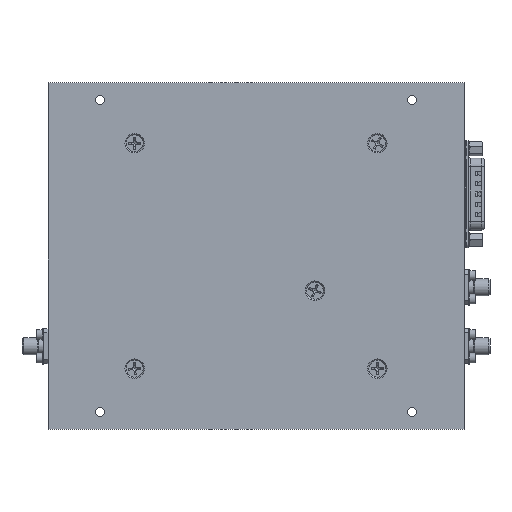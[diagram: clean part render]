
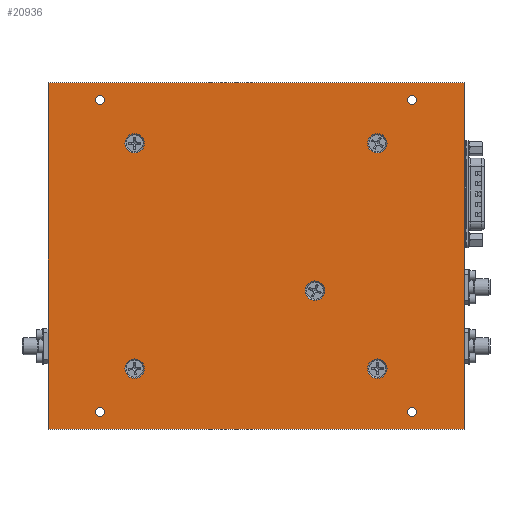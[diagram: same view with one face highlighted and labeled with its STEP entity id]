
A CAD part, top view. The second image highlights one B-rep face of the part: STEP entity #20936.
In plain terms, the highlighted planar face has unit normal (0, 0, 1).
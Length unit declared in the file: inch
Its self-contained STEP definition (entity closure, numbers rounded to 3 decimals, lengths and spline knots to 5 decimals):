
#20427=CARTESIAN_POINT('',(1.8895,-1.625,0.125));
#20428=VERTEX_POINT('',#20427);
#20429=CARTESIAN_POINT('',(1.75,-1.625,0.125));
#20430=DIRECTION('',(0.0,0.0,-1.0));
#20431=DIRECTION('',(1.0,0.0,0.0));
#20432=AXIS2_PLACEMENT_3D('',#20429,#20430,#20431);
#20433=CIRCLE('',#20432,0.1395);
#20434=EDGE_CURVE('',#20428,#20428,#20433,.T.);
#20475=CARTESIAN_POINT('',(-1.6105,1.625,0.125));
#20476=VERTEX_POINT('',#20475);
#20477=CARTESIAN_POINT('',(-1.75,1.625,0.125));
#20478=DIRECTION('',(0.0,0.0,-1.0));
#20479=DIRECTION('',(1.0,0.0,0.0));
#20480=AXIS2_PLACEMENT_3D('',#20477,#20478,#20479);
#20481=CIRCLE('',#20480,0.1395);
#20482=EDGE_CURVE('',#20476,#20476,#20481,.T.);
#20523=CARTESIAN_POINT('',(0.9895,-0.5,0.125));
#20524=VERTEX_POINT('',#20523);
#20525=CARTESIAN_POINT('',(0.85,-0.5,0.125));
#20526=DIRECTION('',(0.0,0.0,-1.0));
#20527=DIRECTION('',(1.0,0.0,0.0));
#20528=AXIS2_PLACEMENT_3D('',#20525,#20526,#20527);
#20529=CIRCLE('',#20528,0.1395);
#20530=EDGE_CURVE('',#20524,#20524,#20529,.T.);
#20571=CARTESIAN_POINT('',(1.8895,1.625,0.125));
#20572=VERTEX_POINT('',#20571);
#20573=CARTESIAN_POINT('',(1.75,1.625,0.125));
#20574=DIRECTION('',(0.0,0.0,-1.0));
#20575=DIRECTION('',(1.0,0.0,0.0));
#20576=AXIS2_PLACEMENT_3D('',#20573,#20574,#20575);
#20577=CIRCLE('',#20576,0.1395);
#20578=EDGE_CURVE('',#20572,#20572,#20577,.T.);
#20619=CARTESIAN_POINT('',(-1.6105,-1.625,0.125));
#20620=VERTEX_POINT('',#20619);
#20621=CARTESIAN_POINT('',(-1.75,-1.625,0.125));
#20622=DIRECTION('',(0.0,0.0,-1.0));
#20623=DIRECTION('',(1.0,0.0,0.0));
#20624=AXIS2_PLACEMENT_3D('',#20621,#20622,#20623);
#20625=CIRCLE('',#20624,0.1395);
#20626=EDGE_CURVE('',#20620,#20620,#20625,.T.);
#20678=CARTESIAN_POINT('',(2.3125,-2.25,0.125));
#20679=VERTEX_POINT('',#20678);
#20680=CARTESIAN_POINT('',(2.25,-2.25,0.125));
#20681=DIRECTION('',(0.0,0.0,-1.0));
#20682=DIRECTION('',(1.0,0.0,0.0));
#20683=AXIS2_PLACEMENT_3D('',#20680,#20681,#20682);
#20684=CIRCLE('',#20683,0.0625);
#20685=EDGE_CURVE('',#20679,#20679,#20684,.T.);
#20706=CARTESIAN_POINT('',(-2.1875,2.25,0.125));
#20707=VERTEX_POINT('',#20706);
#20708=CARTESIAN_POINT('',(-2.25,2.25,0.125));
#20709=DIRECTION('',(0.0,0.0,-1.0));
#20710=DIRECTION('',(1.0,0.0,0.0));
#20711=AXIS2_PLACEMENT_3D('',#20708,#20709,#20710);
#20712=CIRCLE('',#20711,0.0625);
#20713=EDGE_CURVE('',#20707,#20707,#20712,.T.);
#20734=CARTESIAN_POINT('',(2.3125,2.25,0.125));
#20735=VERTEX_POINT('',#20734);
#20736=CARTESIAN_POINT('',(2.25,2.25,0.125));
#20737=DIRECTION('',(0.0,0.0,-1.0));
#20738=DIRECTION('',(1.0,0.0,0.0));
#20739=AXIS2_PLACEMENT_3D('',#20736,#20737,#20738);
#20740=CIRCLE('',#20739,0.0625);
#20741=EDGE_CURVE('',#20735,#20735,#20740,.T.);
#20762=CARTESIAN_POINT('',(-2.1875,-2.25,0.125));
#20763=VERTEX_POINT('',#20762);
#20764=CARTESIAN_POINT('',(-2.25,-2.25,0.125));
#20765=DIRECTION('',(0.0,0.0,-1.0));
#20766=DIRECTION('',(1.0,0.0,0.0));
#20767=AXIS2_PLACEMENT_3D('',#20764,#20765,#20766);
#20768=CIRCLE('',#20767,0.0625);
#20769=EDGE_CURVE('',#20763,#20763,#20768,.T.);
#20789=CARTESIAN_POINT('',(3.0,2.5,0.125));
#20790=VERTEX_POINT('',#20789);
#20797=CARTESIAN_POINT('',(3.0,-2.5,0.125));
#20798=VERTEX_POINT('',#20797);
#20799=CARTESIAN_POINT('',(3.0,-2.5,0.125));
#20800=DIRECTION('',(0.0,1.0,0.0));
#20801=VECTOR('',#20800,5.0);
#20802=LINE('',#20799,#20801);
#20803=EDGE_CURVE('',#20798,#20790,#20802,.T.);
#20828=CARTESIAN_POINT('',(-3.0,-2.5,0.125));
#20829=VERTEX_POINT('',#20828);
#20830=CARTESIAN_POINT('',(-3.0,-2.5,0.125));
#20831=DIRECTION('',(1.0,0.0,0.0));
#20832=VECTOR('',#20831,6.0);
#20833=LINE('',#20830,#20832);
#20834=EDGE_CURVE('',#20829,#20798,#20833,.T.);
#20859=CARTESIAN_POINT('',(-3.0,2.5,0.125));
#20860=VERTEX_POINT('',#20859);
#20861=CARTESIAN_POINT('',(-3.0,2.5,0.125));
#20862=DIRECTION('',(0.0,-1.0,0.0));
#20863=VECTOR('',#20862,5.0);
#20864=LINE('',#20861,#20863);
#20865=EDGE_CURVE('',#20860,#20829,#20864,.T.);
#20888=CARTESIAN_POINT('',(3.0,2.5,0.125));
#20889=DIRECTION('',(-1.0,0.0,0.0));
#20890=VECTOR('',#20889,6.0);
#20891=LINE('',#20888,#20890);
#20892=EDGE_CURVE('',#20790,#20860,#20891,.T.);
#20898=CARTESIAN_POINT('',(0.0,0.0,0.125));
#20899=DIRECTION('',(0.0,0.0,1.0));
#20900=DIRECTION('',(1.0,0.0,0.0));
#20901=AXIS2_PLACEMENT_3D('',#20898,#20899,#20900);
#20902=PLANE('',#20901);
#20903=ORIENTED_EDGE('',*,*,#20892,.T.);
#20904=ORIENTED_EDGE('',*,*,#20865,.T.);
#20905=ORIENTED_EDGE('',*,*,#20834,.T.);
#20906=ORIENTED_EDGE('',*,*,#20803,.T.);
#20907=EDGE_LOOP('',(#20903,#20904,#20905,#20906));
#20908=FACE_OUTER_BOUND('',#20907,.T.);
#20909=ORIENTED_EDGE('',*,*,#20434,.T.);
#20910=EDGE_LOOP('',(#20909));
#20911=FACE_BOUND('',#20910,.T.);
#20912=ORIENTED_EDGE('',*,*,#20482,.T.);
#20913=EDGE_LOOP('',(#20912));
#20914=FACE_BOUND('',#20913,.T.);
#20915=ORIENTED_EDGE('',*,*,#20530,.T.);
#20916=EDGE_LOOP('',(#20915));
#20917=FACE_BOUND('',#20916,.T.);
#20918=ORIENTED_EDGE('',*,*,#20578,.T.);
#20919=EDGE_LOOP('',(#20918));
#20920=FACE_BOUND('',#20919,.T.);
#20921=ORIENTED_EDGE('',*,*,#20626,.T.);
#20922=EDGE_LOOP('',(#20921));
#20923=FACE_BOUND('',#20922,.T.);
#20924=ORIENTED_EDGE('',*,*,#20685,.T.);
#20925=EDGE_LOOP('',(#20924));
#20926=FACE_BOUND('',#20925,.T.);
#20927=ORIENTED_EDGE('',*,*,#20713,.T.);
#20928=EDGE_LOOP('',(#20927));
#20929=FACE_BOUND('',#20928,.T.);
#20930=ORIENTED_EDGE('',*,*,#20741,.T.);
#20931=EDGE_LOOP('',(#20930));
#20932=FACE_BOUND('',#20931,.T.);
#20933=ORIENTED_EDGE('',*,*,#20769,.T.);
#20934=EDGE_LOOP('',(#20933));
#20935=FACE_BOUND('',#20934,.T.);
#20936=ADVANCED_FACE('',(#20908,#20911,#20914,#20917,#20920,#20923,#20926,#20929,#20932,#20935),#20902,.T.);
